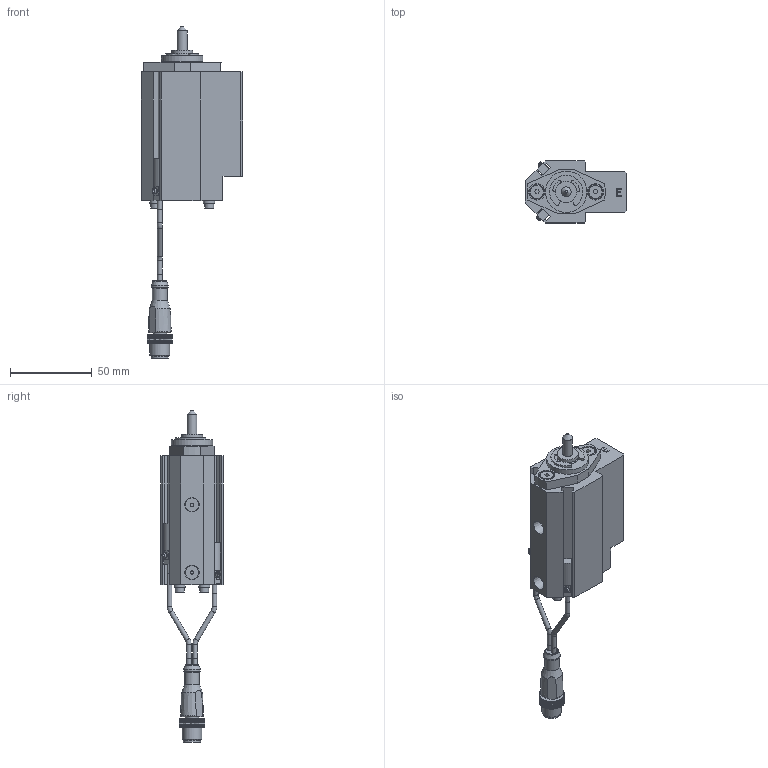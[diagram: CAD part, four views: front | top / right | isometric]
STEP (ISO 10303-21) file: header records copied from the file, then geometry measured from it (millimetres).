
FILE_DESCRIPTION(/* description */ ('NAAMS FLOATING MICRO PIN'),/* implementation_level */ '2;1');
FILE_NAME(/* name */ 'C:\Vault Workspace\CAD\Welker\Shot Pin\NMP\NMP060012EANL3.stp',/* time_stamp */ '2021-01-27T08:28:29-05:00',/* author */ ('KLabrecque'),/* organization */ (''),/* preprocessor_version */ 'ST-DEVELOPER v18.1',/* originating_system */ 'Autodesk Inventor 2020',/* authorisation */ '');
FILE_SCHEMA (('AUTOMOTIVE_DESIGN { 1 0 10303 214 3 1 1 }'));
Length unit declared in the file: millimetre
Products named in the file (16): NMPL01; NMP L3 SWITCH; L3 Connector; L3 Sensor 1; L3 Sensor 2; L3 Sensor cable; L3 Sensor cable 2; M3X0.5-8 SHCS; NL3; NMPE06; NMPE03; NMPE05-DIA-LENGTH; 985432A218; NMPE01E-PORT; RMPE02; M5X5 SHOULDER
Assembly tree (22 placements, depth 3):
  NMPL01
    NMP L3 SWITCH
      L3 Connector
      L3 Sensor 1
      L3 Sensor 2
      L3 Sensor cable
      L3 Sensor cable 2
    M3X0.5-8 SHCS  x4
    NL3  x4
    NMPE06
    NMPE03
    NMPE05-DIA-LENGTH
    985432A218
    NMPE01E-PORT
    RMPE02
    M5X5 SHOULDER  x2
Bounding box: 62 x 38.1 x 203.54 mm (x, y, z)
Volume: 112588.9 mm3; surface area: 44390.2 mm2
Topology: 21 solids, 21 shells, 748 faces, 2030 edges, 1357 vertices
Faces by surface type: plane 553, cylinder 144, cone 35, torus 11, sphere 3, bspline 2
Full cylindrical faces by diameter (mm): 2 x2, 2.459 x4, 2.9 x10, 3 x5, 3.242 x2, 3.4 x4, 4 x2, 5 x6, 5.5 x4, 6 x1, 6.647 x2, 7 x4, 8 x2, 8.3 x2, 9 x3, 10 x3, 10.4 x1, 10.5 x1, 12 x1, 13 x3, 16 x2, 19.05 x3, 21 x1, 22.5 x1, 23.672 x1, 24 x1, 25.4 x1, 25.5 x1, 26.5 x1, 28.677 x1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
Entity records: 22859 total; most frequent: CARTESIAN_POINT 4181, ORIENTED_EDGE 3752, DIRECTION 3736, EDGE_CURVE 1876, LINE 1388, VECTOR 1388, VERTEX_POINT 1262, AXIS2_PLACEMENT_3D 1174
